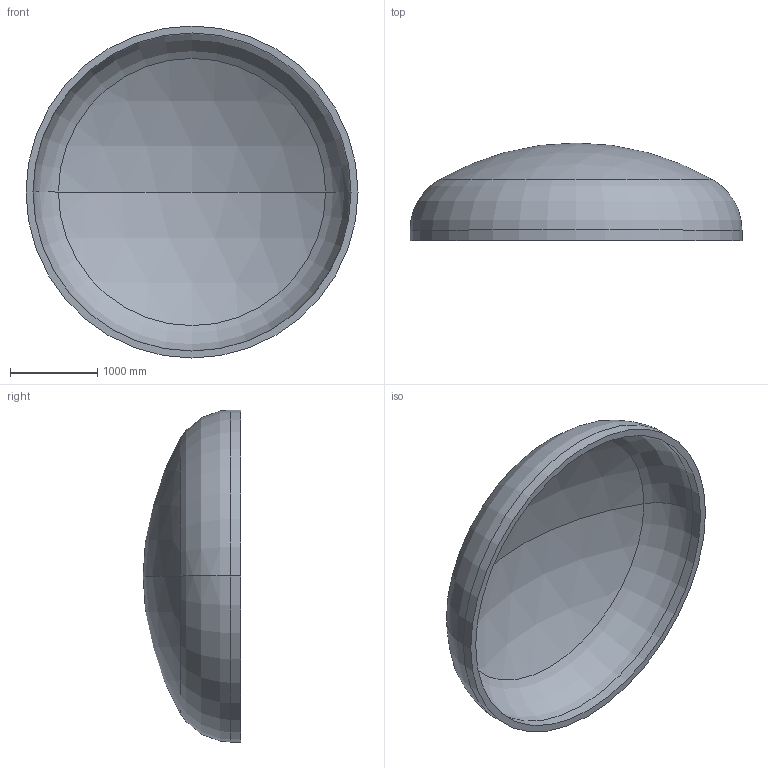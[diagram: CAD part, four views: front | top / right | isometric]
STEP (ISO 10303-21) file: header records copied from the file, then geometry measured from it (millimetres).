
FILE_DESCRIPTION (( 'STEP AP203' ), '1' );
FILE_NAME ('DIN 28013 Korbbogenform_-_Boden DIN 28013 - 3800 x 120 - I - s=80.step', '2016-07-01T21:40:57', ( '' ), ( '' ), 'SwSTEP 2.0', 'SolidWorks 2013', '' );
FILE_SCHEMA (( 'CONFIG_CONTROL_DESIGN' ));
Length unit declared in the file: millimetre
Products named in the file (1): DIN 28013 Korbbogenform_-_Boden DIN 28013 - 3800 x 120 - I - s=80
Bounding box: 3800 x 1118.26 x 3800 mm (x, y, z)
Volume: 1334371885.2 mm3; surface area: 34307627.7 mm2
Topology: 1 solids, 1 shells, 13 faces, 24 edges, 14 vertices
Faces by surface type: torus 4, cylinder 4, sphere 4, plane 1
Entity records: 407 total; most frequent: DIRECTION 72, CARTESIAN_POINT 52, ORIENTED_EDGE 48, AXIS2_PLACEMENT_3D 34, EDGE_CURVE 24, CIRCLE 20, EDGE_LOOP 14, VERTEX_POINT 14
